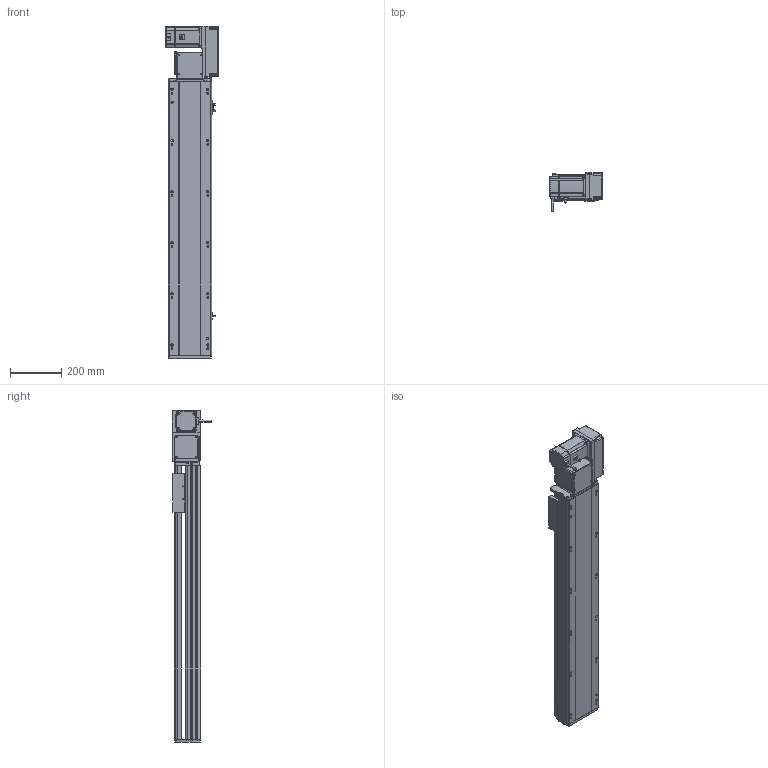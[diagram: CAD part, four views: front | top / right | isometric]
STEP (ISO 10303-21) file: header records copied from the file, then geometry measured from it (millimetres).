
FILE_DESCRIPTION (( 'STEP AP214' ), '1' );
FILE_NAME ('RTB17S-XX-800-R-M75-C4.STEP', '2025-12-12T01:33:46', ( '' ), ( '' ), 'SwSTEP 2.0', 'SolidWorks 2018', '' );
FILE_SCHEMA (( 'AUTOMOTIVE_DESIGN' ));
Length unit declared in the file: millimetre
Products named in the file (15): RTB17S-L-007奻裔^RTB17S-XX-XX-R-M75-C4; RTB17S-L-004-賑釱^RTB17S-賑釱_RTB17S-XX-XX-R-M75-C4; RTB22S-GY-008-M75--萇儂啣^RTB17S-R-々湍釱蚾饜-750W_RTB17S-XX-XX-R-M75-C4; RTB17S-賑釱^RTB17S-XX-XX-R-M75-C4; RTB17S-L-001-耜醱啣^RTB17S-XX-XX-R-M75-C4; RTB17S-L-014-T20-P75--々湍釱^RTB17S-R-々湍釱蚾饜-750W_RTB17S-XX-XX-R-M75-C4; 750W萇儂^RTB17S-XX-XX-R-M75-C4; EE672^RTB17S-XX-XX-R-M75-C4; RTB17-R-011菁釱^RTB17S-XX-XX-R-M75-C4; RTB17S-R-々湍釱蚾饜-750W^RTB17S-XX-XX-R-M75-C4; RTH13-BL-012覜茼え俋离^RTB17S-賑釱_RTB17S-XX-XX-R-M75-C4; RTB22S-GY-018P^RTB17S-R-々湍釱蚾饜-750W_RTB17S-XX-XX-R-M75-C4; RTB22S-GY-017P^RTB17S-R-々湍釱蚾饜-750W_RTB17S-XX-XX-R-M75-C4; RTB22S-GY-005P^RTB17S-R-々湍釱蚾饜-750W_RTB17S-XX-XX-R-M75-C4; RTB17S-XX-800-R-M75-C4
Assembly tree (17 placements, depth 3):
  RTB17S-XX-800-R-M75-C4
    RTB17-R-011菁釱^RTB17S-XX-XX-R-M75-C4
    EE672^RTB17S-XX-XX-R-M75-C4  x3
    RTB17S-L-001-耜醱啣^RTB17S-XX-XX-R-M75-C4
    RTB17S-賑釱^RTB17S-XX-XX-R-M75-C4
      RTB17S-L-004-賑釱^RTB17S-賑釱_RTB17S-XX-XX-R-M75-C4
      RTH13-BL-012覜茼え俋离^RTB17S-賑釱_RTB17S-XX-XX-R-M75-C4
    RTB17S-L-007奻裔^RTB17S-XX-XX-R-M75-C4
    750W萇儂^RTB17S-XX-XX-R-M75-C4
    RTB17S-R-々湍釱蚾饜-750W^RTB17S-XX-XX-R-M75-C4
      RTB17S-L-014-T20-P75--々湍釱^RTB17S-R-々湍釱蚾饜-750W_RTB17S-XX-XX-R-M75-C4
      RTB22S-GY-005P^RTB17S-R-々湍釱蚾饜-750W_RTB17S-XX-XX-R-M75-C4
      RTB22S-GY-017P^RTB17S-R-々湍釱蚾饜-750W_RTB17S-XX-XX-R-M75-C4  x2
      RTB22S-GY-008-M75--萇儂啣^RTB17S-R-々湍釱蚾饜-750W_RTB17S-XX-XX-R-M75-C4
      RTB22S-GY-018P^RTB17S-R-々湍釱蚾饜-750W_RTB17S-XX-XX-R-M75-C4
Bounding box: 207.4 x 152.7 x 1299 mm (x, y, z)
Volume: 10953528.4 mm3; surface area: 1824353.9 mm2
Topology: 17 solids, 17 shells, 2073 faces, 5728 edges, 3698 vertices
Faces by surface type: plane 968, cylinder 689, bspline 294, cone 110, sphere 8, torus 4
Entity records: 57334 total; most frequent: CARTESIAN_POINT 16792, ORIENTED_EDGE 8300, DIRECTION 7772, EDGE_CURVE 4150, AXIS2_PLACEMENT_3D 2718, VERTEX_POINT 2702, VECTOR 2336, LINE 2336
